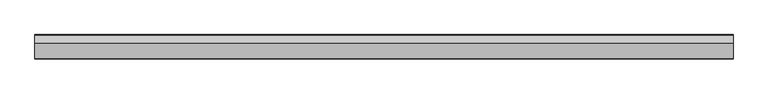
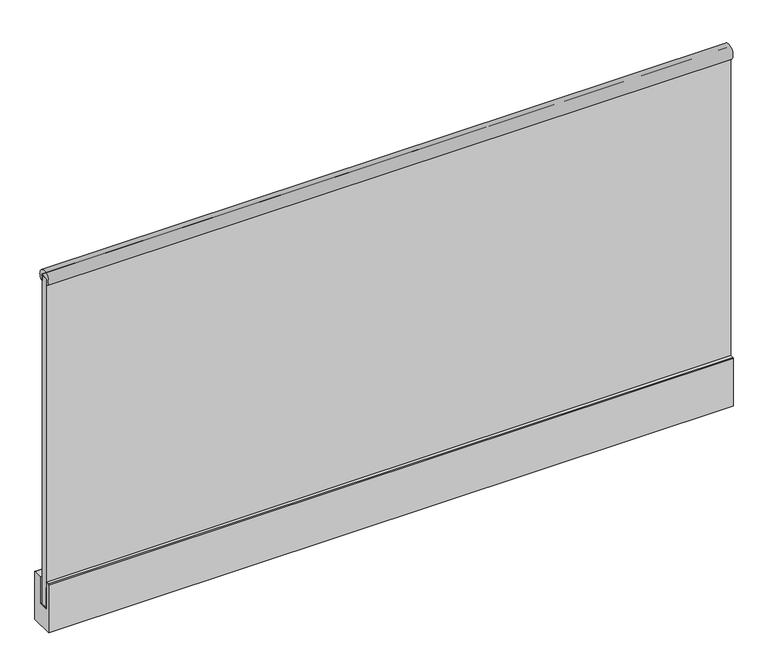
"""IFC4 building model written with IfcOpenShell, lengths in millimetres: railing geometry, Glass Railing (10+10) - Faraone - Ninfa 176 - Wall mounted - Elipse Handrail 50."""

from ifc_helpers import new_model, si_unit, point, frame, frame_2d, origin, place, context, project, spatial, polyline, circle_curve, trimmed, segment, composite_curve, outline, extrude, source, transform, mapped, element, save


def railing_2c3a87d8(model_context):
    return source(origin(), model_context, "Body", "SweptSolid", [
        extrude(outline(composite_curve([segment(polyline([(683.811512, 1066.5209903), (680.8421604, 1066.5209903), (680.8421604, 1085.52)]), True, "CONTINUOUS"), segment(trimmed(circle_curve(frame_2d((676.8421604, 1085.52)), 4.0), [point((680.8421604, 1085.52))], [point((676.8421604, 1089.52))], True, "CARTESIAN"), True, "CONTINUOUS"), segment(polyline([(676.8421604, 1089.52), (656.0821604, 1089.52)]), True, "CONTINUOUS"), segment(trimmed(circle_curve(frame_2d((656.0821604, 1085.52)), 4.0), [point((656.0821604, 1089.52))], [point((652.0821604, 1085.52))], True, "CARTESIAN"), True, "CONTINUOUS"), segment(polyline([(652.0821604, 1085.52), (652.0821604, 1066.5209903), (649.1128089, 1066.5209903)]), True, "CONTINUOUS"), segment(trimmed(circle_curve(frame_2d((666.4621604, 1084.5209903)), 25.0), [point((649.1128089, 1066.5209903))], [point((683.811512, 1066.5209903))], False, "CARTESIAN"), True, "CONTINUOUS")], self_intersect=False)), frame((4362.6376845, 0.0, 0.0), z_axis=(1.0, 0.0, 0.0), x_axis=(0.0, 1.0, 0.0)), (0.0, 0.0, 1.0), 2320.0),
        extrude(outline(polyline([(655.6821604, -92.36), (655.6821604, 1087.04), (665.9321604, 1087.04), (665.9321604, -91.56), (666.9321604, -91.56), (666.9321604, 1087.04), (677.1821604, 1087.04), (677.1821604, -92.36), (655.6821604, -92.36)])), frame((4362.6376845, 0.0, 0.0), z_axis=(1.0, 0.0, 0.0), x_axis=(0.0, 1.0, 0.0)), (0.0, 0.0, 1.0), 2320.0),
        extrude(outline(composite_curve([segment(polyline([(643.8095909, -0.0006325), (653.7140314, -0.0006325), (653.7140314, -95.3393625), (685.4902895, -95.3393625), (685.4902895, -0.0006325), (717.9710254, -0.0006325)]), True, "CONTINUOUS"), segment(trimmed(circle_curve(frame_2d((717.9710254, -3.0621312)), 3.0614987), [point((717.9710254, -0.0006325))], [point((721.0325241, -3.0621312))], False, "CARTESIAN"), True, "CONTINUOUS"), segment(polyline([(721.0325241, -3.0621312), (721.0325241, -173.21), (640.6889907, -173.21), (640.6889907, -3.1212327)]), True, "CONTINUOUS"), segment(trimmed(circle_curve(frame_2d((643.8095909, -3.1212327)), 3.1206002), [point((640.6889907, -3.1212327))], [point((643.8095909, -0.0006325))], False, "CARTESIAN"), True, "CONTINUOUS")], self_intersect=False)), frame((4362.6376845, 0.0, 0.0), z_axis=(1.0, 0.0, 0.0), x_axis=(0.0, 1.0, 0.0)), (0.0, 0.0, 1.0), 2320.0),
        extrude(outline(polyline([(653.7102457, -95.34), (653.7102457, -20.1108016), (655.6841937, -20.1108016), (655.6841937, -92.3609041), (677.1940752, -92.3609041), (677.1940752, -95.34), (653.7102457, -95.34)])), frame((4362.6376845, 0.0, 0.0), z_axis=(1.0, 0.0, 0.0), x_axis=(0.0, 1.0, 0.0)), (0.0, 0.0, 1.0), 2320.0),
        extrude(outline(polyline([(4362.6376845, 652.0821604), (4362.6376845, 655.6821604), (6682.6376845, 655.6821604), (6682.6376845, 652.0821604), (4362.6376845, 652.0821604)])), frame((0.0, 0.0, 1066.52), z_axis=(0.0, 0.0, 1.0), x_axis=(1.0, 0.0, 0.0)), (0.0, 0.0, 1.0), 17.0),
        extrude(outline(polyline([(4362.6376845, 677.2121604), (4362.6376845, 680.8121604), (6682.6376845, 680.8121604), (6682.6376845, 677.2121604), (4362.6376845, 677.2121604)])), frame((0.0, 0.0, 1066.52), z_axis=(0.0, 0.0, 1.0), x_axis=(1.0, 0.0, 0.0)), (0.0, 0.0, 1.0), 17.0),
        extrude(outline(polyline([(4362.6376845, 655.6321604), (4362.6376845, 677.1321604), (6682.6376845, 677.1321604), (6682.6376845, 655.6321604), (4362.6376845, 655.6321604)])), frame((0.0, 0.0, 1087.02), z_axis=(0.0, 0.0, 1.0), x_axis=(1.0, 0.0, 0.0)), (0.0, 0.0, 1.0), 2.5),
    ])


if __name__ == "__main__":
    model = new_model("IFC4")
    model_context = context("Model", 3, world=origin())
    ifc_project = project(units=[si_unit("LENGTHUNIT", "METRE", prefix="MILLI")], contexts=[model_context])
    site = spatial("IfcSite", under=ifc_project)
    building = spatial("IfcBuilding", under=site)
    placement = place(None, origin())
    railing_shape = railing_2c3a87d8(model_context)
    element("IfcRailing", 1, ObjectType="Glass Railing (10+10) - Faraone - Ninfa 176 - Wall mounted - Elipse Handrail 50", at=placement, inside=building, context=model_context, shape_type="MappedRepresentation", body=[
        mapped(railing_shape, transform((0.0, 0.0, 0.0), x_axis=(1.0, 0.0, 0.0), y_axis=(0.0, 1.0, 0.0), z_axis=(0.0, 0.0, 1.0))),
    ])
    save(model, "model.ifc")
